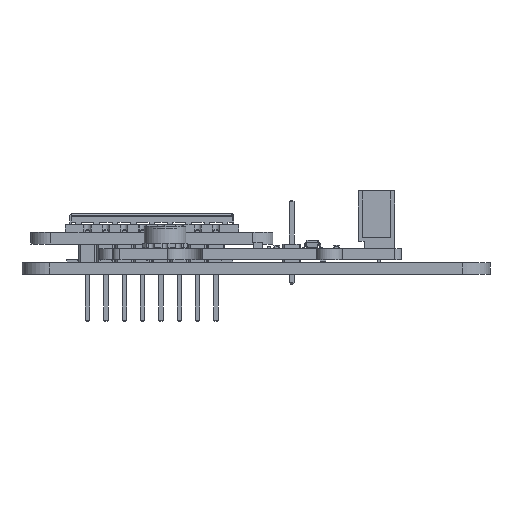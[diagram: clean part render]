
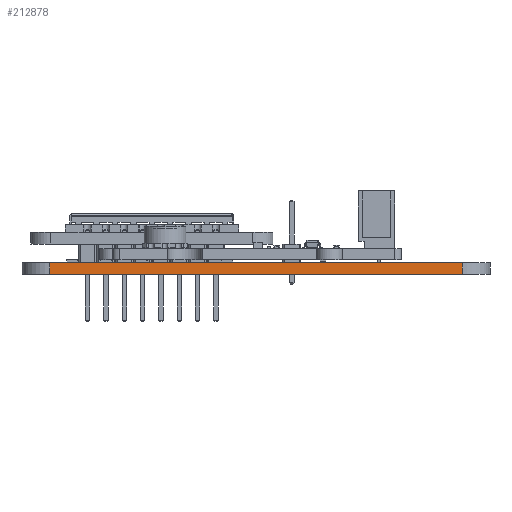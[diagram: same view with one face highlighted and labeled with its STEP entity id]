
A CAD part, left-side view. The second image highlights one B-rep face of the part: STEP entity #212878.
In plain terms, the highlighted planar face has unit normal (-1, 0, 0).
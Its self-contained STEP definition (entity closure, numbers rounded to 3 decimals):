
#208357 = CYLINDRICAL_SURFACE('',#208358,3.81);
#208358 = AXIS2_PLACEMENT_3D('',#208359,#208360,#208361);
#208359 = CARTESIAN_POINT('',(96.266,-126.746,0.));
#208360 = DIRECTION('',(0.,0.,-1.));
#208361 = DIRECTION('',(1.,0.,0.));
#208385 = PLANE('',#208386);
#208386 = AXIS2_PLACEMENT_3D('',#208387,#208388,#208389);
#208387 = CARTESIAN_POINT('',(156.689,-98.121,1.6));
#208388 = DIRECTION('',(0.,0.,1.));
#208389 = DIRECTION('',(1.,0.,0.));
#208439 = PLANE('',#208440);
#208440 = AXIS2_PLACEMENT_3D('',#208441,#208442,#208443);
#208441 = CARTESIAN_POINT('',(156.689,-98.121,0.));
#208442 = DIRECTION('',(0.,0.,1.));
#208443 = DIRECTION('',(1.,0.,0.));
#208454 = EDGE_CURVE('',#208455,#208457,#208459,.T.);
#208455 = VERTEX_POINT('',#208456);
#208456 = CARTESIAN_POINT('',(92.456,-126.746,0.));
#208457 = VERTEX_POINT('',#208458);
#208458 = CARTESIAN_POINT('',(92.456,-126.746,1.6));
#208459 = SURFACE_CURVE('',#208460,(#208464,#208471),.PCURVE_S1.);
#208460 = LINE('',#208461,#208462);
#208461 = CARTESIAN_POINT('',(92.456,-126.746,0.));
#208462 = VECTOR('',#208463,1.);
#208463 = DIRECTION('',(0.,0.,1.));
#208464 = PCURVE('',#208357,#208465);
#208465 = DEFINITIONAL_REPRESENTATION('',(#208466),#208470);
#208466 = LINE('',#208467,#208468);
#208467 = CARTESIAN_POINT('',(-3.142,0.));
#208468 = VECTOR('',#208469,1.);
#208469 = DIRECTION('',(0.,-1.));
#208470 = ( GEOMETRIC_REPRESENTATION_CONTEXT(2) 
PARAMETRIC_REPRESENTATION_CONTEXT() REPRESENTATION_CONTEXT('2D SPACE',''
  ) );
#208471 = PCURVE('',#208472,#208477);
#208472 = PLANE('',#208473);
#208473 = AXIS2_PLACEMENT_3D('',#208474,#208475,#208476);
#208474 = CARTESIAN_POINT('',(92.456,-69.596,0.));
#208475 = DIRECTION('',(1.,0.,0.));
#208476 = DIRECTION('',(0.,-1.,0.));
#208477 = DEFINITIONAL_REPRESENTATION('',(#208478),#208482);
#208478 = LINE('',#208479,#208480);
#208479 = CARTESIAN_POINT('',(57.15,0.));
#208480 = VECTOR('',#208481,1.);
#208481 = DIRECTION('',(0.,-1.));
#208482 = ( GEOMETRIC_REPRESENTATION_CONTEXT(2) 
PARAMETRIC_REPRESENTATION_CONTEXT() REPRESENTATION_CONTEXT('2D SPACE',''
  ) );
#208693 = VERTEX_POINT('',#208694);
#208694 = CARTESIAN_POINT('',(92.456,-69.596,0.));
#208709 = CYLINDRICAL_SURFACE('',#208710,3.81);
#208710 = AXIS2_PLACEMENT_3D('',#208711,#208712,#208713);
#208711 = CARTESIAN_POINT('',(96.266,-69.596,0.));
#208712 = DIRECTION('',(0.,0.,-1.));
#208713 = DIRECTION('',(1.,0.,0.));
#208721 = EDGE_CURVE('',#208693,#208455,#208722,.T.);
#208722 = SURFACE_CURVE('',#208723,(#208727,#208734),.PCURVE_S1.);
#208723 = LINE('',#208724,#208725);
#208724 = CARTESIAN_POINT('',(92.456,-69.596,0.));
#208725 = VECTOR('',#208726,1.);
#208726 = DIRECTION('',(0.,-1.,0.));
#208727 = PCURVE('',#208439,#208728);
#208728 = DEFINITIONAL_REPRESENTATION('',(#208729),#208733);
#208729 = LINE('',#208730,#208731);
#208730 = CARTESIAN_POINT('',(-64.233,28.525));
#208731 = VECTOR('',#208732,1.);
#208732 = DIRECTION('',(0.,-1.));
#208733 = ( GEOMETRIC_REPRESENTATION_CONTEXT(2) 
PARAMETRIC_REPRESENTATION_CONTEXT() REPRESENTATION_CONTEXT('2D SPACE',''
  ) );
#208734 = PCURVE('',#208472,#208735);
#208735 = DEFINITIONAL_REPRESENTATION('',(#208736),#208740);
#208736 = LINE('',#208737,#208738);
#208737 = CARTESIAN_POINT('',(0.,0.));
#208738 = VECTOR('',#208739,1.);
#208739 = DIRECTION('',(1.,0.));
#208740 = ( GEOMETRIC_REPRESENTATION_CONTEXT(2) 
PARAMETRIC_REPRESENTATION_CONTEXT() REPRESENTATION_CONTEXT('2D SPACE',''
  ) );
#211004 = VERTEX_POINT('',#211005);
#211005 = CARTESIAN_POINT('',(92.456,-69.596,1.6));
#211027 = EDGE_CURVE('',#211004,#208457,#211028,.T.);
#211028 = SURFACE_CURVE('',#211029,(#211033,#211040),.PCURVE_S1.);
#211029 = LINE('',#211030,#211031);
#211030 = CARTESIAN_POINT('',(92.456,-69.596,1.6));
#211031 = VECTOR('',#211032,1.);
#211032 = DIRECTION('',(0.,-1.,0.));
#211033 = PCURVE('',#208385,#211034);
#211034 = DEFINITIONAL_REPRESENTATION('',(#211035),#211039);
#211035 = LINE('',#211036,#211037);
#211036 = CARTESIAN_POINT('',(-64.233,28.525));
#211037 = VECTOR('',#211038,1.);
#211038 = DIRECTION('',(0.,-1.));
#211039 = ( GEOMETRIC_REPRESENTATION_CONTEXT(2) 
PARAMETRIC_REPRESENTATION_CONTEXT() REPRESENTATION_CONTEXT('2D SPACE',''
  ) );
#211040 = PCURVE('',#208472,#211041);
#211041 = DEFINITIONAL_REPRESENTATION('',(#211042),#211046);
#211042 = LINE('',#211043,#211044);
#211043 = CARTESIAN_POINT('',(0.,-1.6));
#211044 = VECTOR('',#211045,1.);
#211045 = DIRECTION('',(1.,0.));
#211046 = ( GEOMETRIC_REPRESENTATION_CONTEXT(2) 
PARAMETRIC_REPRESENTATION_CONTEXT() REPRESENTATION_CONTEXT('2D SPACE',''
  ) );
#212878 = ADVANCED_FACE('',(#212879),#208472,.F.);
#212879 = FACE_BOUND('',#212880,.F.);
#212880 = EDGE_LOOP('',(#212881,#212902,#212903,#212904));
#212881 = ORIENTED_EDGE('',*,*,#212882,.T.);
#212882 = EDGE_CURVE('',#208693,#211004,#212883,.T.);
#212883 = SURFACE_CURVE('',#212884,(#212888,#212895),.PCURVE_S1.);
#212884 = LINE('',#212885,#212886);
#212885 = CARTESIAN_POINT('',(92.456,-69.596,0.));
#212886 = VECTOR('',#212887,1.);
#212887 = DIRECTION('',(0.,0.,1.));
#212888 = PCURVE('',#208472,#212889);
#212889 = DEFINITIONAL_REPRESENTATION('',(#212890),#212894);
#212890 = LINE('',#212891,#212892);
#212891 = CARTESIAN_POINT('',(0.,0.));
#212892 = VECTOR('',#212893,1.);
#212893 = DIRECTION('',(0.,-1.));
#212894 = ( GEOMETRIC_REPRESENTATION_CONTEXT(2) 
PARAMETRIC_REPRESENTATION_CONTEXT() REPRESENTATION_CONTEXT('2D SPACE',''
  ) );
#212895 = PCURVE('',#208709,#212896);
#212896 = DEFINITIONAL_REPRESENTATION('',(#212897),#212901);
#212897 = LINE('',#212898,#212899);
#212898 = CARTESIAN_POINT('',(-3.142,0.));
#212899 = VECTOR('',#212900,1.);
#212900 = DIRECTION('',(0.,-1.));
#212901 = ( GEOMETRIC_REPRESENTATION_CONTEXT(2) 
PARAMETRIC_REPRESENTATION_CONTEXT() REPRESENTATION_CONTEXT('2D SPACE',''
  ) );
#212902 = ORIENTED_EDGE('',*,*,#211027,.T.);
#212903 = ORIENTED_EDGE('',*,*,#208454,.F.);
#212904 = ORIENTED_EDGE('',*,*,#208721,.F.);
